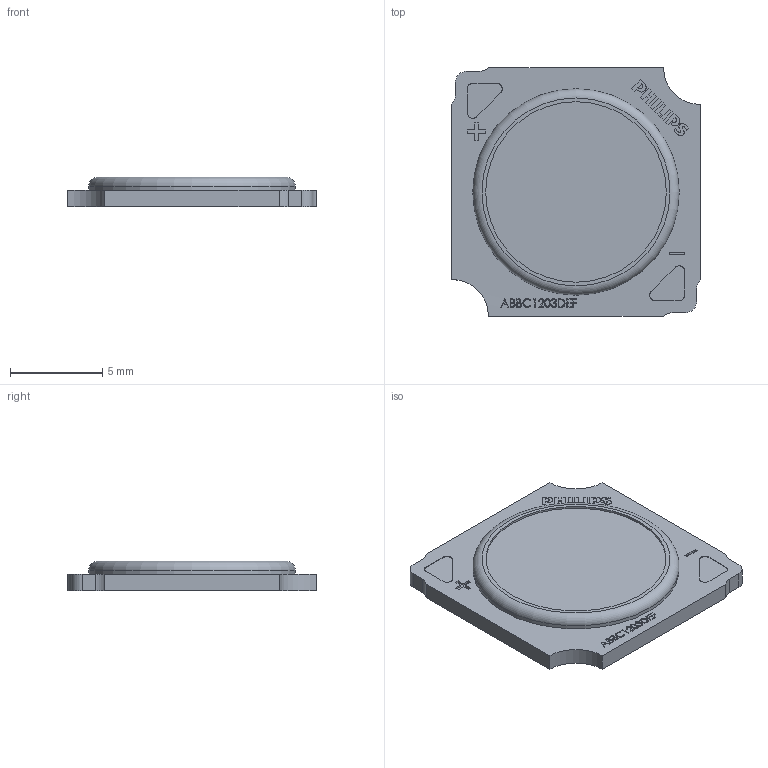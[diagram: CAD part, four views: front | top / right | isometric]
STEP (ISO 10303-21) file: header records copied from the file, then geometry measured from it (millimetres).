
FILE_DESCRIPTION(/* description */ (''),/* implementation_level */ '2;1');
FILE_NAME(/* name */ '1203 1204 G8N 20240722.stp',/* time_stamp */ '2024-08-15T16:10:55+08:00',/* author */ (''),/* organization */ (''),/* preprocessor_version */ 'ST-DEVELOPER v19.4',/* originating_system */ 'SIEMENS PLM Software NX2212.8901',/* authorisation */ '');
FILE_SCHEMA (('AUTOMOTIVE_DESIGN { 1 0 10303 214 3 1 1 1 }'));
Length unit declared in the file: millimetre
Products named in the file (1): 1203 1204 G8N 20240722_objects
Bounding box: 13.5 x 13.5 x 1.6 mm (x, y, z)
Volume: 215.4 mm3; surface area: 416.7 mm2
Topology: 1 solids, 1 shells, 482 faces, 1336 edges, 890 vertices
Faces by surface type: plane 402, extrusion 71, cylinder 8, torus 1
Full cylindrical faces by diameter (mm): 9.8 x1, 11.2 x1
Entity records: 19952 total; most frequent: CARTESIAN_POINT 7678, ORIENTED_EDGE 2666, DIRECTION 2107, EDGE_CURVE 1333, VECTOR 1237, LINE 1166, VERTEX_POINT 890, EDGE_LOOP 519
